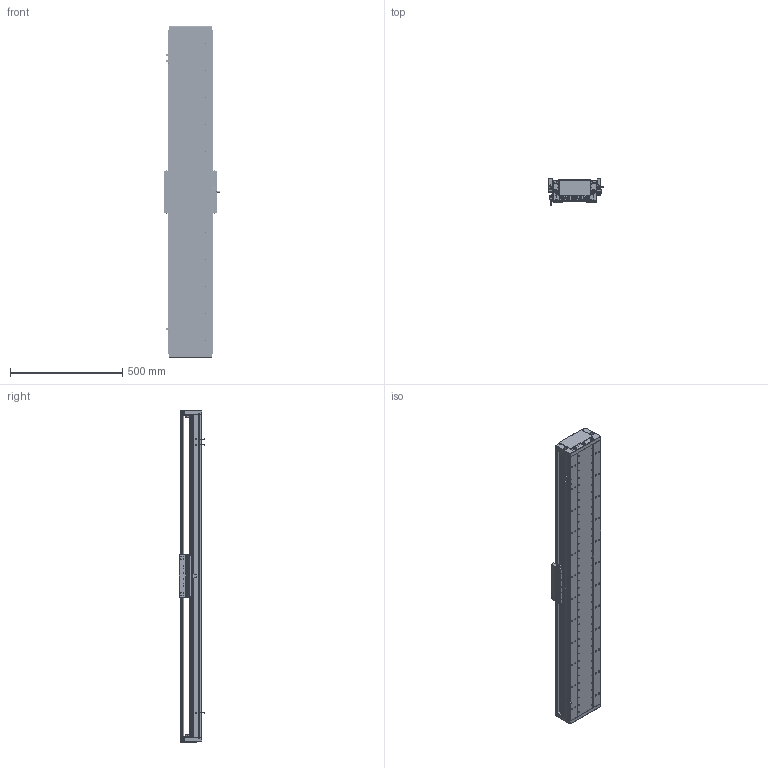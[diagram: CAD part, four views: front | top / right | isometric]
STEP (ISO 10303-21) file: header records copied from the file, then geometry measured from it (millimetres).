
FILE_DESCRIPTION (( 'STEP AP203' ), '1' );
FILE_NAME ('DA-C195-C2-T1200-C010-0.2 眻盄萇儂.STEP', '2025-08-15T01:04:57', ( '' ), ( '' ), 'SwSTEP 2.0', 'SolidWorks 2019', '' );
FILE_SCHEMA (( 'CONFIG_CONTROL_DESIGN' ));
Length unit declared in the file: millimetre
Products named in the file (12): 66156-0001-005-00 光电感应片(默认); IU-CU195-L 菁釱絳寢; LMT黍杅芛; DA95-HXJ-00 遣喳砎蝶; DA195-DG-H-00  端盖（压铸镂空版）; 66156-0001-003-00 裔啣; IU-CU195-L-00 菁釱(L1440); CU195-C2賑輸-俋楷; 葩璃 DA95-GT-T-00; MS200 棠掑喜S315-T240; PM-T45ㄗ侂狟ㄘ; DA-C195-C2-T1200-C010-0.2 眻盄萇儂
Assembly tree (20 placements, depth 3):
  DA-C195-C2-T1200-C010-0.2 眻盄萇儂
    IU-CU195-L 菁釱絳寢
      IU-CU195-L-00 菁釱(L1440)
      葩璃 DA95-GT-T-00  x4
    LMT黍杅芛
    MS200 棠掑喜S315-T240
    PM-T45ㄗ侂狟ㄘ  x3
    66156-0001-005-00 光电感应片(默认)
    DA195-DG-H-00  端盖（压铸镂空版）  x2
    DA95-HXJ-00 遣喳砎蝶  x4
    66156-0001-003-00 裔啣
    CU195-C2賑輸-俋楷
Bounding box: 248 x 115.6 x 1480 mm (x, y, z)
Volume: 10042106.3 mm3; surface area: 2880206.5 mm2
Topology: 58 solids, 130 shells, 5363 faces, 13844 edges, 8441 vertices
Faces by surface type: cylinder 2373, plane 1640, bspline 710, cone 560, torus 44, sphere 36
Entity records: 150941 total; most frequent: CARTESIAN_POINT 47455, ORIENTED_EDGE 21742, DIRECTION 20704, EDGE_CURVE 10871, AXIS2_PLACEMENT_3D 7715, VERTEX_POINT 6871, VECTOR 5274, LINE 5274
